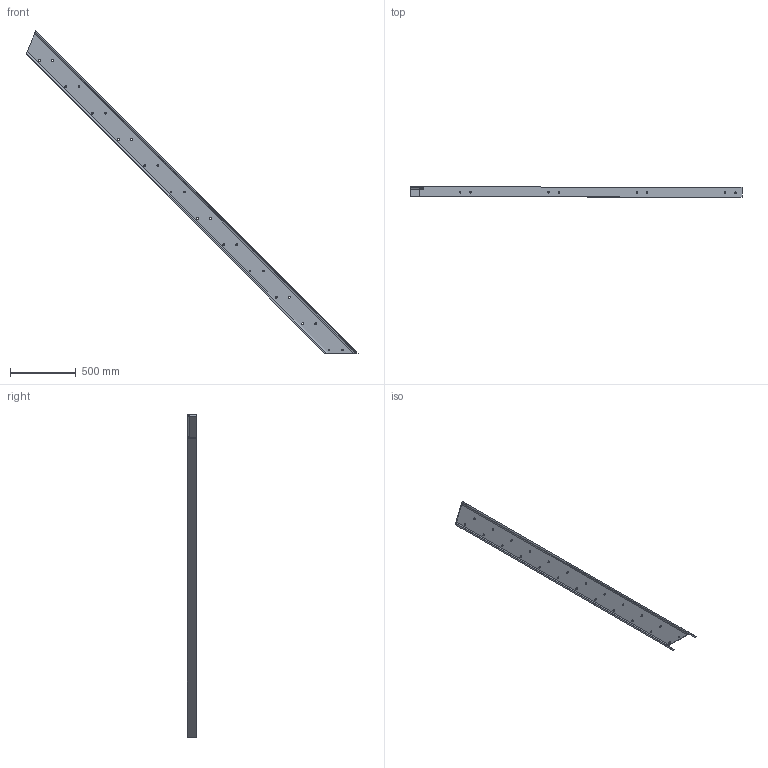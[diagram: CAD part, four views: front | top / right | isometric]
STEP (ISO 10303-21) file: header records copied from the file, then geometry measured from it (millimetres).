
FILE_DESCRIPTION (( 'STEP AP214' ), '1' );
FILE_NAME ('CCJ029-REP.019 - MONTANT ESCALIER INFERIEUR-RAS.STEP', '2024-01-11T14:54:01', ( '' ), ( '' ), 'SwSTEP 2.0', 'SolidWorks 2021', '' );
FILE_SCHEMA (( 'AUTOMOTIVE_DESIGN' ));
Length unit declared in the file: millimetre
Products named in the file (1): CCJ029-REP.019 - MONTANT ESCALIER INFERIEUR-RAS
Bounding box: 2524.56 x 75 x 2450 mm (x, y, z)
Volume: 8348294.4 mm3; surface area: 2137693.5 mm2
Topology: 1 solids, 1 shells, 108 faces, 303 edges, 202 vertices
Faces by surface type: cylinder 66, plane 24, bspline 18
Entity records: 4909 total; most frequent: CARTESIAN_POINT 1964, ORIENTED_EDGE 606, DIRECTION 573, EDGE_CURVE 303, AXIS2_PLACEMENT_3D 219, VERTEX_POINT 202, EDGE_LOOP 177, VECTOR 135
